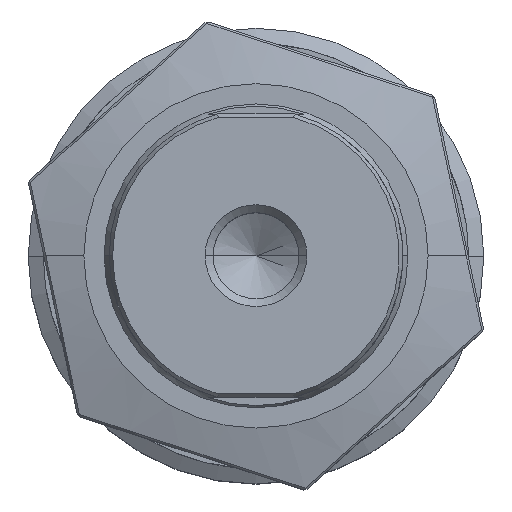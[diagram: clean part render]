
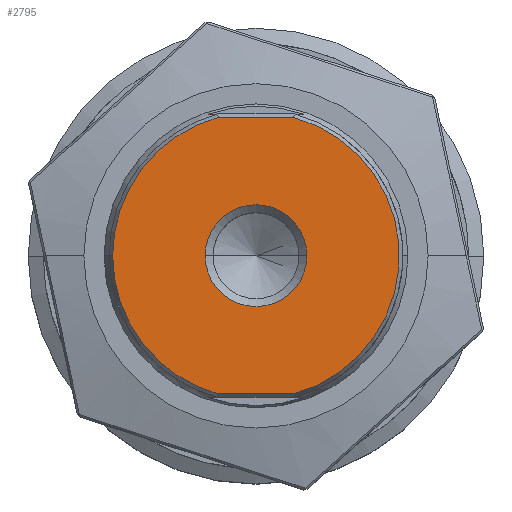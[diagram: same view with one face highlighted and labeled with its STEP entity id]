
A CAD part, top view. The second image highlights one B-rep face of the part: STEP entity #2795.
In plain terms, the highlighted planar face has unit normal (0, 0, 1).
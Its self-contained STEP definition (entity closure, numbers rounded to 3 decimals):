
#29 = VECTOR ( 'NONE', #2462, 1000. ) ;
#55 = EDGE_CURVE ( 'NONE', #1821, #2791, #601, .T. ) ;
#90 = CIRCLE ( 'NONE', #2084, 5.025 ) ;
#140 = ORIENTED_EDGE ( 'NONE', *, *, #2932, .T. ) ;
#280 = EDGE_CURVE ( 'NONE', #1094, #1488, #307, .T. ) ;
#286 = DIRECTION ( 'NONE',  ( 1., 0., 0. ) ) ;
#307 = LINE ( 'NONE', #3640, #29 ) ;
#313 = ORIENTED_EDGE ( 'NONE', *, *, #3478, .T. ) ;
#396 = CARTESIAN_POINT ( 'NONE',  ( 0., 0., 40. ) ) ;
#446 = EDGE_CURVE ( 'NONE', #2791, #1821, #90, .T. ) ;
#447 = DIRECTION ( 'NONE',  ( 0., 0., 1. ) ) ;
#465 = LINE ( 'NONE', #2502, #2801 ) ;
#521 = CARTESIAN_POINT ( 'NONE',  ( -3.729, -13.654, 40. ) ) ;
#601 = CIRCLE ( 'NONE', #2264, 5.025 ) ;
#749 = CARTESIAN_POINT ( 'NONE',  ( 0., 0., 40. ) ) ;
#764 = ORIENTED_EDGE ( 'NONE', *, *, #2689, .T. ) ;
#785 = DIRECTION ( 'NONE',  ( 0., 0., 1. ) ) ;
#1069 = CARTESIAN_POINT ( 'NONE',  ( 3.729, -13.654, 40. ) ) ;
#1094 = VERTEX_POINT ( 'NONE', #521 ) ;
#1100 = CARTESIAN_POINT ( 'NONE',  ( 0., 0., 40. ) ) ;
#1129 = DIRECTION ( 'NONE',  ( 1., 0., 0. ) ) ;
#1167 = DIRECTION ( 'NONE',  ( 0., 0., 1. ) ) ;
#1287 = DIRECTION ( 'NONE',  ( 1., 0., 0. ) ) ;
#1331 = CARTESIAN_POINT ( 'NONE',  ( 0., 0., 40. ) ) ;
#1355 = CARTESIAN_POINT ( 'NONE',  ( 3.729, 13.654, 40. ) ) ;
#1436 = AXIS2_PLACEMENT_3D ( 'NONE', #1331, #785, #1973 ) ;
#1488 = VERTEX_POINT ( 'NONE', #1069 ) ;
#1565 = CARTESIAN_POINT ( 'NONE',  ( 5.025, 0., 40. ) ) ;
#1821 = VERTEX_POINT ( 'NONE', #1565 ) ;
#1930 = DIRECTION ( 'NONE',  ( -1., 0., 0. ) ) ;
#1948 = ORIENTED_EDGE ( 'NONE', *, *, #55, .F. ) ;
#1973 = DIRECTION ( 'NONE',  ( 1., 0., 0. ) ) ;
#1979 = CARTESIAN_POINT ( 'NONE',  ( -5.025, 0., 40. ) ) ;
#1997 = CIRCLE ( 'NONE', #3001, 14.154 ) ;
#2084 = AXIS2_PLACEMENT_3D ( 'NONE', #749, #447, #2562 ) ;
#2088 = VERTEX_POINT ( 'NONE', #2887 ) ;
#2192 = CARTESIAN_POINT ( 'NONE',  ( 0., 0., 40. ) ) ;
#2238 = AXIS2_PLACEMENT_3D ( 'NONE', #2588, #1167, #1129 ) ;
#2264 = AXIS2_PLACEMENT_3D ( 'NONE', #2192, #3044, #1287 ) ;
#2380 = VERTEX_POINT ( 'NONE', #1355 ) ;
#2424 = DIRECTION ( 'NONE',  ( 0., 0., 1. ) ) ;
#2462 = DIRECTION ( 'NONE',  ( 1., 0., 0. ) ) ;
#2502 = CARTESIAN_POINT ( 'NONE',  ( -3.775, 13.654, 40. ) ) ;
#2545 = PLANE ( 'NONE',  #2735 ) ;
#2562 = DIRECTION ( 'NONE',  ( 1., 0., 0. ) ) ;
#2588 = CARTESIAN_POINT ( 'NONE',  ( 0., 0., 40. ) ) ;
#2689 = EDGE_CURVE ( 'NONE', #2380, #3127, #465, .T. ) ;
#2735 = AXIS2_PLACEMENT_3D ( 'NONE', #396, #2424, #3687 ) ;
#2744 = EDGE_CURVE ( 'NONE', #3127, #2088, #3704, .T. ) ;
#2791 = VERTEX_POINT ( 'NONE', #1979 ) ;
#2795 = ADVANCED_FACE ( 'NONE', ( #3649, #3178 ), #2545, .T. ) ;
#2801 = VECTOR ( 'NONE', #1930, 1000. ) ;
#2803 = CIRCLE ( 'NONE', #2238, 14.154 ) ;
#2887 = CARTESIAN_POINT ( 'NONE',  ( -14.154, 0., 40. ) ) ;
#2932 = EDGE_CURVE ( 'NONE', #1488, #2380, #2803, .T. ) ;
#2940 = EDGE_LOOP ( 'NONE', ( #3236, #313, #3592, #140, #764 ) ) ;
#3001 = AXIS2_PLACEMENT_3D ( 'NONE', #1100, #3189, #286 ) ;
#3044 = DIRECTION ( 'NONE',  ( 0., 0., 1. ) ) ;
#3127 = VERTEX_POINT ( 'NONE', #3698 ) ;
#3178 = FACE_OUTER_BOUND ( 'NONE', #2940, .T. ) ;
#3189 = DIRECTION ( 'NONE',  ( 0., 0., 1. ) ) ;
#3236 = ORIENTED_EDGE ( 'NONE', *, *, #2744, .T. ) ;
#3478 = EDGE_CURVE ( 'NONE', #2088, #1094, #1997, .T. ) ;
#3561 = EDGE_LOOP ( 'NONE', ( #1948, #3682 ) ) ;
#3592 = ORIENTED_EDGE ( 'NONE', *, *, #280, .T. ) ;
#3640 = CARTESIAN_POINT ( 'NONE',  ( 3.775, -13.654, 40. ) ) ;
#3649 = FACE_BOUND ( 'NONE', #3561, .T. ) ;
#3682 = ORIENTED_EDGE ( 'NONE', *, *, #446, .F. ) ;
#3687 = DIRECTION ( 'NONE',  ( 1., 0., 0. ) ) ;
#3698 = CARTESIAN_POINT ( 'NONE',  ( -3.729, 13.654, 40. ) ) ;
#3704 = CIRCLE ( 'NONE', #1436, 14.154 ) ;
